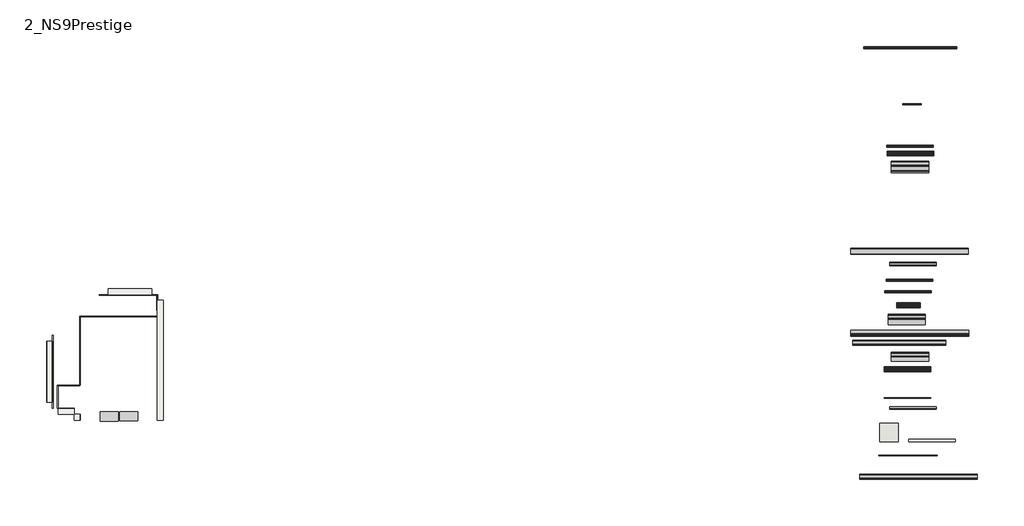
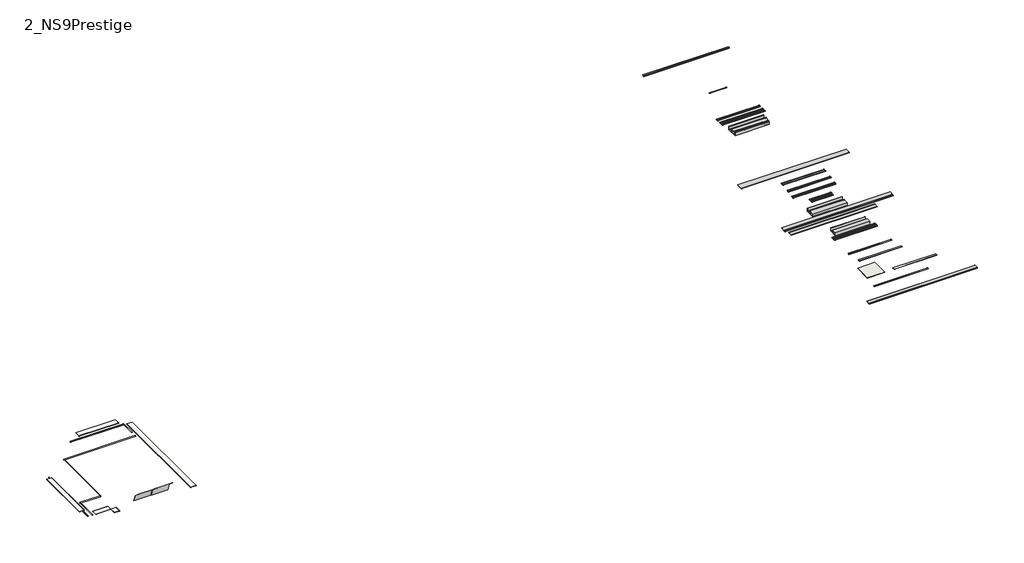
# One storey: 21 proxies, 12 slabs, 2 walls.
"""IFC4 building model written with IfcOpenShell, lengths in millimetres."""

from ifc_helpers import new_model, si_unit, origin, place, context, project, spatial, transform, mapped, element, save
from components import generic_models_a66f869a, generic_models_8ecae792, generic_models_b1896c54, generic_models_54147b73, generic_models_b9b95333, generic_models_aabe8a61, generic_models_b8b53aee, generic_models_fe17f52b, generic_models_7034d713, generic_models_974fd3aa, generic_models_bae6f31c, generic_models_4adef035, generic_models_2699ce9c, generic_models_a9fd2c46, generic_models_b56241a0, generic_models_6b5908dc, generic_models_9f248290, generic_models_0c7c71ab, generic_models_16c41e59, generic_models_e84ea2a9, slab_a8a3c319, slab_712858f9, slab_79dd8232, slab_ec17df41, slab_38352cfc, slab_794facc7, slab_2f73c0f9, slab_88ad0c29, slab_d76aea63, slab_1db0556c, slab_f668fd21, slab_74978fe9, wall_9159aa23, wall_a92842a3

model = new_model("IFC4")

# Units and contexts
model_context = context("Model", 3, world=origin())
ifc_project = project(units=[si_unit("LENGTHUNIT", "METRE", prefix="MILLI")], contexts=[model_context])

# Site, building, storey
site = spatial("IfcSite", under=ifc_project)
building = spatial("IfcBuilding", under=site)
storey = spatial("IfcBuildingStorey", under=building, Name="2_NS9Prestige", Elevation=-245.0)

# Proxies
placement = place(None, origin())
generic_models_shape = generic_models_a66f869a(model_context)
element("IfcBuildingElementProxy", 1, Name="cascada : cascada", ObjectType="cascada : cascada", at=placement, inside=storey, context=model_context, shape_type="MappedRepresentation", body=[
    mapped(generic_models_shape, transform((0.0, 0.0, 0.0), x_axis=(1.0, 0.0, 0.0), y_axis=(0.0, 1.0, 0.0), z_axis=(0.0, 0.0, 1.0))),
])
element("IfcBuildingElementProxy", 2, Name="cascada1 : cascada", ObjectType="cascada1 : cascada", at=placement, inside=storey, context=model_context, shape_type="MappedRepresentation", body=[
    mapped(generic_models_shape, transform((-1028.958558, -3.9575329, 0.0), x_axis=(1.0, 0.0, 0.0), y_axis=(0.0, 1.0, 0.0), z_axis=(0.0, 0.0, 1.0))),
])
generic_models_2_shape = generic_models_8ecae792(model_context)
element("IfcBuildingElementProxy", 3, Name="Muestra 2.01m RS921 : Muestra 2.01m RS921", ObjectType="Muestra 2.01m RS921 : Muestra 2.01m RS921", at=placement, inside=storey, context=model_context, shape_type="MappedRepresentation", body=[
    mapped(generic_models_2_shape, transform((-89592.9622892, 18777.7075668, 0.0), x_axis=(1.0, 0.0, 0.0), y_axis=(0.0, 1.0, 0.0), z_axis=(0.0, 0.0, 1.0))),
])
generic_models_3_shape = generic_models_b1896c54(model_context)
element("IfcBuildingElementProxy", 4, Name="Muestra 6.32m 647 Anti-Slip : Muestra 6.32m 647 Anti-Slip", ObjectType="Muestra 6.32m 647 Anti-Slip : Muestra 6.32m 647 Anti-Slip", at=placement, inside=storey, context=model_context, shape_type="MappedRepresentation", body=[
    mapped(generic_models_3_shape, transform((-91592.9622892, 18777.7075668, 0.0), x_axis=(1.0, 0.0, 0.0), y_axis=(0.0, 1.0, 0.0), z_axis=(0.0, 0.0, 1.0))),
])
generic_models_4_shape = generic_models_54147b73(model_context)
element("IfcBuildingElementProxy", 5, Name="Muestra 5.01m 245FL : Muestra 5.01m 245FL", ObjectType="Muestra 5.01m 245FL : Muestra 5.01m 245FL", at=placement, inside=storey, context=model_context, shape_type="MappedRepresentation", body=[
    mapped(generic_models_4_shape, transform((-91492.9622892, 18777.7075668, 0.0), x_axis=(1.0, 0.0, 0.0), y_axis=(0.0, 1.0, 0.0), z_axis=(0.0, 0.0, 1.0))),
])
generic_models_5_shape = generic_models_b9b95333(model_context)
element("IfcBuildingElementProxy", 6, Name="Muestra 2.01m RS901 : Muestra 2.01m RS901", ObjectType="Muestra 2.01m RS901 : Muestra 2.01m RS901", at=placement, inside=storey, context=model_context, shape_type="MappedRepresentation", body=[
    mapped(generic_models_5_shape, transform((-95192.9622892, 18777.7075668, 0.0), x_axis=(1.0, 0.0, 0.0), y_axis=(0.0, 1.0, 0.0), z_axis=(0.0, 0.0, 1.0))),
])
generic_models_6_shape = generic_models_aabe8a61(model_context)
element("IfcBuildingElementProxy", 7, Name="Muestra 2.5m 216 Anti-Slip : Muestra 2.5m 216 Anti-Slip", ObjectType="Muestra 2.5m 216 Anti-Slip : Muestra 2.5m 216 Anti-Slip", at=placement, inside=storey, context=model_context, shape_type="MappedRepresentation", body=[
    mapped(generic_models_6_shape, transform((5500.0, 0.0, 0.0), x_axis=(1.0, 0.0, 0.0), y_axis=(0.0, 1.0, 0.0), z_axis=(0.0, 0.0, 1.0))),
])
generic_models_7_shape = generic_models_b8b53aee(model_context)
element("IfcBuildingElementProxy", 8, Name="Muestra 2.5m 112 Liso : Muestra 2.5m 112 Liso", ObjectType="Muestra 2.5m 112 Liso : Muestra 2.5m 112 Liso", at=placement, inside=storey, context=model_context, shape_type="MappedRepresentation", body=[
    mapped(generic_models_7_shape, transform((-89592.9622892, 18777.7075668, 0.0), x_axis=(1.0, 0.0, 0.0), y_axis=(0.0, 1.0, 0.0), z_axis=(0.0, 0.0, 1.0))),
])
generic_models_8_shape = generic_models_fe17f52b(model_context)
element("IfcBuildingElementProxy", 9, Name="Muestra 2.5m 035 Anti-Slip : Muestra 2.5m 035 Anti-Slip", ObjectType="Muestra 2.5m 035 Anti-Slip : Muestra 2.5m 035 Anti-Slip", at=placement, inside=storey, context=model_context, shape_type="MappedRepresentation", body=[
    mapped(generic_models_8_shape, transform((-95192.9622892, 18777.7075668, 0.0), x_axis=(1.0, 0.0, 0.0), y_axis=(0.0, 1.0, 0.0), z_axis=(0.0, 0.0, 1.0))),
])
generic_models_9_shape = generic_models_7034d713(model_context)
element("IfcBuildingElementProxy", 10, Name="Muestra 1.25m 016 : Muestra 1.25m 016", ObjectType="Muestra 1.25m 016 : Muestra 1.25m 016", at=placement, inside=storey, context=model_context, shape_type="MappedRepresentation", body=[
    mapped(generic_models_9_shape, transform((-97292.9622892, 18777.7075668, 0.0), x_axis=(1.0, 0.0, 0.0), y_axis=(0.0, 1.0, 0.0), z_axis=(0.0, 0.0, 1.0))),
])
generic_models_10_shape = generic_models_974fd3aa(model_context)
element("IfcBuildingElementProxy", 11, Name="Muestra 2.5m 013 Anti-Slip : Muestra 2.5m 013 Anti-Slip", ObjectType="Muestra 2.5m 013 Anti-Slip : Muestra 2.5m 013 Anti-Slip", at=placement, inside=storey, context=model_context, shape_type="MappedRepresentation", body=[
    mapped(generic_models_10_shape, transform((-104492.9622892, 19577.7075668, 0.0), x_axis=(1.0, 0.0, 0.0), y_axis=(0.0, 1.0, 0.0), z_axis=(0.0, 0.0, 1.0))),
])
generic_models_11_shape = generic_models_bae6f31c(model_context)
element("IfcBuildingElementProxy", 12, Name="Muestra 2.5m 007 Tecno : Muestra 2.5m 007 Tecno", ObjectType="Muestra 2.5m 007 Tecno : Muestra 2.5m 007 Tecno", at=placement, inside=storey, context=model_context, shape_type="MappedRepresentation", body=[
    mapped(generic_models_11_shape, transform((-105092.9622892, 18777.7075668, 0.0), x_axis=(1.0, 0.0, 0.0), y_axis=(0.0, 1.0, 0.0), z_axis=(0.0, 0.0, 1.0))),
])
generic_models_12_shape = generic_models_4adef035(model_context)
element("IfcBuildingElementProxy", 13, Name="Muestra 2.5m 106 Liso : Muestra 2.5m 106 Liso", ObjectType="Muestra 2.5m 106 Liso : Muestra 2.5m 106 Liso", at=placement, inside=storey, context=model_context, shape_type="MappedRepresentation", body=[
    mapped(generic_models_12_shape, transform((-103992.9622892, 18777.7075668, 0.0), x_axis=(1.0, 0.0, 0.0), y_axis=(0.0, 1.0, 0.0), z_axis=(0.0, 0.0, 1.0))),
])
generic_models_13_shape = generic_models_2699ce9c(model_context)
element("IfcBuildingElementProxy", 14, Name="Muestra 3.16m 188 : Muestra 3.16m 188", ObjectType="Muestra 3.16m 188 : Muestra 3.16m 188", at=placement, inside=storey, context=model_context, shape_type="MappedRepresentation", body=[
    mapped(generic_models_13_shape, transform((-95176.7446036, 18571.6673946, 0.0), x_axis=(1.0, 0.0, 0.0), y_axis=(0.0, 1.0, 0.0), z_axis=(0.0, 0.0, 1.0))),
])
generic_models_14_shape = generic_models_a9fd2c46(model_context)
element("IfcBuildingElementProxy", 15, Name="Muestra 6.32m L62 : Muestra 6.32m L62", ObjectType="Muestra 6.32m L62 : Muestra 6.32m L62", at=placement, inside=storey, context=model_context, shape_type="MappedRepresentation", body=[
    mapped(generic_models_14_shape, transform((-125928.5634662, 18508.3854142, 0.0), x_axis=(1.0, 0.0, 0.0), y_axis=(0.0, 1.0, 0.0), z_axis=(0.0, 0.0, 1.0))),
])
generic_models_15_shape = generic_models_b56241a0(model_context)
element("IfcBuildingElementProxy", 16, Name="Muestra 2.01m RS911 : Muestra 2.01m RS911", ObjectType="Muestra 2.01m RS911 : Muestra 2.01m RS911", at=placement, inside=storey, context=model_context, shape_type="MappedRepresentation", body=[
    mapped(generic_models_15_shape, transform((-50823.6972224, -421.2285857, 0.0), x_axis=(1.0, 0.0, 0.0), y_axis=(0.0, 1.0, 0.0), z_axis=(0.0, 0.0, 1.0))),
])
generic_models_16_shape = generic_models_6b5908dc(model_context)
element("IfcBuildingElementProxy", 17, Name="Muestra 2.5m 001 (2filas) : Muestra 2.5m 001(2filas)", ObjectType="Muestra 2.5m 001 (2filas) : Muestra 2.5m 001(2filas)", at=placement, inside=storey, context=model_context, shape_type="MappedRepresentation", body=[
    mapped(generic_models_16_shape, transform((-50823.6972224, -2021.2285857, 0.0), x_axis=(1.0, 0.0, 0.0), y_axis=(0.0, 1.0, 0.0), z_axis=(0.0, 0.0, 1.0))),
])
generic_models_17_shape = generic_models_9f248290(model_context)
element("IfcBuildingElementProxy", 18, Name="Muestra 6.32m 245 CM : Muestra 6.32m 245 CM", ObjectType="Muestra 6.32m 245 CM : Muestra 6.32m 245 CM", at=placement, inside=storey, context=model_context, shape_type="MappedRepresentation", body=[
    mapped(generic_models_17_shape, transform((-33877.1051363, -158.3499913, 0.0), x_axis=(1.0, 0.0, 0.0), y_axis=(0.0, 1.0, 0.0), z_axis=(0.0, 0.0, 1.0))),
])
generic_models_18_shape = generic_models_0c7c71ab(model_context)
element("IfcBuildingElementProxy", 19, Name="Muestra 2.5m 001 (1fila) : Muestra 2.5m 001(1fila)", ObjectType="Muestra 2.5m 001 (1fila) : Muestra 2.5m 001(1fila)", at=placement, inside=storey, context=model_context, shape_type="MappedRepresentation", body=[
    mapped(generic_models_18_shape, transform((-32922.0606597, 20.0597154, 0.0), x_axis=(1.0, 0.0, 0.0), y_axis=(0.0, 1.0, 0.0), z_axis=(0.0, 0.0, 1.0))),
])
generic_models_19_shape = generic_models_16c41e59(model_context)
element("IfcBuildingElementProxy", 20, Name="Muestra 1.00ML_243 PF : Muestra 1.00ML_243 PF", ObjectType="Muestra 1.00ML_243 PF : Muestra 1.00ML_243 PF", at=placement, inside=storey, context=model_context, shape_type="MappedRepresentation", body=[
    mapped(generic_models_19_shape, transform((-61887.8355876, 160.0504672, 0.0), x_axis=(1.0, 0.0, 0.0), y_axis=(0.0, 1.0, 0.0), z_axis=(0.0, 0.0, 1.0))),
])
generic_models_20_shape = generic_models_e84ea2a9(model_context)
element("IfcBuildingElementProxy", 21, Name="Muestra_5 m G49 : Muestra_5 m G49", ObjectType="Muestra_5 m G49 : Muestra_5 m G49", at=placement, inside=storey, context=model_context, shape_type="MappedRepresentation", body=[
    mapped(generic_models_20_shape, transform((-22534.6440274, 880.9005181, 0.0), x_axis=(1.0, 0.0, 0.0), y_axis=(0.0, 1.0, 0.0), z_axis=(0.0, 0.0, 1.0))),
])

# Slabs
slab_shape = slab_a8a3c319(model_context)
element("IfcSlab", 22, ObjectType="ROSA GRES_188 : Pieza 188_Serena_Ocra_Anti-Slip", at=placement, inside=storey, context=model_context, shape_type="MappedRepresentation", body=[
    mapped(slab_shape, transform((6152.0895909, 13705.2888364, -209.9734114), x_axis=(1.0, 0.0, 0.0), y_axis=(0.0, 0.0, 1.0), z_axis=(0.0, -1.0, 0.0))),
])
slab_2_shape = slab_712858f9(model_context)
element("IfcSlab", 23, ObjectType="ROSA GRES_L62 : Pieza L62_Serena_Ocra_Anti-Slip", at=placement, inside=storey, context=model_context, shape_type="MappedRepresentation", body=[
    mapped(slab_2_shape, transform((5142.0895909, 7280.3154249, 0.0), x_axis=(0.0, -1.0, 0.0), y_axis=(1.0, 0.0, 0.0), z_axis=(0.0, 0.0, 1.0))),
])
slab_3_shape = slab_79dd8232(model_context)
element("IfcSlab", 24, ObjectType="ROSA GRES_L62 : Pieza L62_Serena_Ocra_Anti-Slip", at=placement, inside=storey, context=model_context, shape_type="MappedRepresentation", body=[
    mapped(slab_3_shape, transform((4825.8395909, 7595.3154249, 0.0), x_axis=(-1.0, 0.0, 0.0), y_axis=(0.0, -1.0, 0.0), z_axis=(0.0, 0.0, 1.0))),
])
slab_4_shape = slab_ec17df41(model_context)
element("IfcSlab", 25, ObjectType="ROSA GRES_183 : Pieza 183_Serena_Ocra_Anti-Slip", at=placement, inside=storey, context=model_context, shape_type="MappedRepresentation", body=[
    mapped(slab_4_shape, transform((3901.0895909, 7595.3154249, -240.0), x_axis=(0.0, 1.0, 0.0), y_axis=(0.0, 0.0, 1.0), z_axis=(1.0, 0.0, 0.0))),
])
slab_5_shape = slab_38352cfc(model_context)
element("IfcSlab", 26, ObjectType="ROSA GRES_183 : Pieza 183_Serena_Ocra_Anti-Slip", at=placement, inside=storey, context=model_context, shape_type="MappedRepresentation", body=[
    mapped(slab_5_shape, transform((5101.5895909, 8835.3154249, -240.0), x_axis=(-1.0, 0.0, 0.0), y_axis=(0.0, 0.0, -1.0), z_axis=(0.0, -1.0, 0.0))),
])
slab_6_shape = slab_794facc7(model_context)
element("IfcSlab", 27, ObjectType="ROSA GRES_183 : Pieza 183_Serena_Ocra_Anti-Slip", at=placement, inside=storey, context=model_context, shape_type="MappedRepresentation", body=[
    mapped(slab_6_shape, transform((5101.0895909, 12541.9503074, -240.0), x_axis=(0.0, -1.0, 0.0), y_axis=(1.0, 0.0, 0.0), z_axis=(0.0, 0.0, 1.0))),
])
slab_7_shape = slab_2f73c0f9(model_context)
element("IfcSlab", 28, ObjectType="ROSA GRES_183 : Pieza 183_Serena_Ocra_Anti-Slip", at=placement, inside=storey, context=model_context, shape_type="MappedRepresentation", body=[
    mapped(slab_7_shape, transform((5101.0895909, 12541.9503074, -240.0), x_axis=(1.0, 0.0, 0.0), y_axis=(0.0, 1.0, 0.0), z_axis=(0.0, 0.0, 1.0))),
])
slab_8_shape = slab_88ad0c29(model_context)
element("IfcSlab", 29, ObjectType="ROSA GRES_188 : Pieza 188_Serena_Ocra_Anti-Slip", at=placement, inside=storey, context=model_context, shape_type="MappedRepresentation", body=[
    mapped(slab_8_shape, transform((9292.0630023, 13695.3154249, -209.9734114), x_axis=(0.0, -1.0, 0.0), y_axis=(1.0, 0.0, 0.0), z_axis=(0.0, 0.0, 1.0))),
])
slab_9_shape = slab_d76aea63(model_context)
element("IfcSlab", 30, ObjectType="ROSA GRES_L62 : Pieza L62_Serena_Ocra_Anti-Slip", at=placement, inside=storey, context=model_context, shape_type="MappedRepresentation", body=[
    mapped(slab_9_shape, transform((3640.8395909, 11185.7755099, 0.0), x_axis=(0.0, -1.0, 0.0), y_axis=(1.0, 0.0, 0.0), z_axis=(0.0, 0.0, 1.0))),
])
slab_10_shape = slab_1db0556c(model_context)
element("IfcSlab", 31, ObjectType="ROSA GRES_L62 : Pieza L62_Serena_Ocra_Anti-Slip", at=placement, inside=storey, context=model_context, shape_type="MappedRepresentation", body=[
    mapped(slab_10_shape, transform((9282.0895909, 13386.8154249, 0.0), x_axis=(0.0, -1.0, 0.0), y_axis=(1.0, 0.0, 0.0), z_axis=(0.0, 0.0, 1.0))),
])
slab_11_shape = slab_f668fd21(model_context)
element("IfcSlab", 32, ObjectType="ROSA GRES_L62 : Pieza L62_Serena_Ocra_Anti-Slip", at=placement, inside=storey, context=model_context, shape_type="MappedRepresentation", body=[
    mapped(slab_11_shape, transform((8974.7709034, 13694.9404249, 0.0), x_axis=(-1.0, 0.0, 0.0), y_axis=(0.0, -1.0, 0.0), z_axis=(0.0, 0.0, 1.0))),
])
slab_12_shape = slab_74978fe9(model_context)
element("IfcSlab", 33, ObjectType="ROSA GRES_188 : Pieza 188_Serena_Ocra_Anti-Slip", at=placement, inside=storey, context=model_context, shape_type="MappedRepresentation", body=[
    mapped(slab_12_shape, transform((3631.1161794, 11503.0711087, -209.9734114), x_axis=(0.0, -1.0, 0.0), y_axis=(1.0, 0.0, 0.0), z_axis=(0.0, 0.0, 1.0))),
])

# Walls
wall_shape = wall_9159aa23(model_context)
element("IfcWall", 34, ObjectType="Muestra 1m2_320 Liso : Muestra 1m2_320 Liso", at=placement, inside=storey, context=model_context, shape_type="MappedRepresentation", body=[
    mapped(wall_shape, transform((0.0, 0.0, 0.0), x_axis=(1.0, 0.0, 0.0), y_axis=(0.0, 1.0, 0.0), z_axis=(0.0, 0.0, 1.0))),
])
wall_2_shape = wall_a92842a3(model_context)
element("IfcWall", 35, ObjectType="Muestra_10Piezas_122 G1 Liso : Muestra_10Piezas_122G Liso", at=placement, inside=storey, context=model_context, shape_type="MappedRepresentation", body=[
    mapped(wall_2_shape, transform((0.0, 0.0, 0.0), x_axis=(1.0, 0.0, 0.0), y_axis=(0.0, 1.0, 0.0), z_axis=(0.0, 0.0, 1.0))),
])

save(model, "model.ifc")
